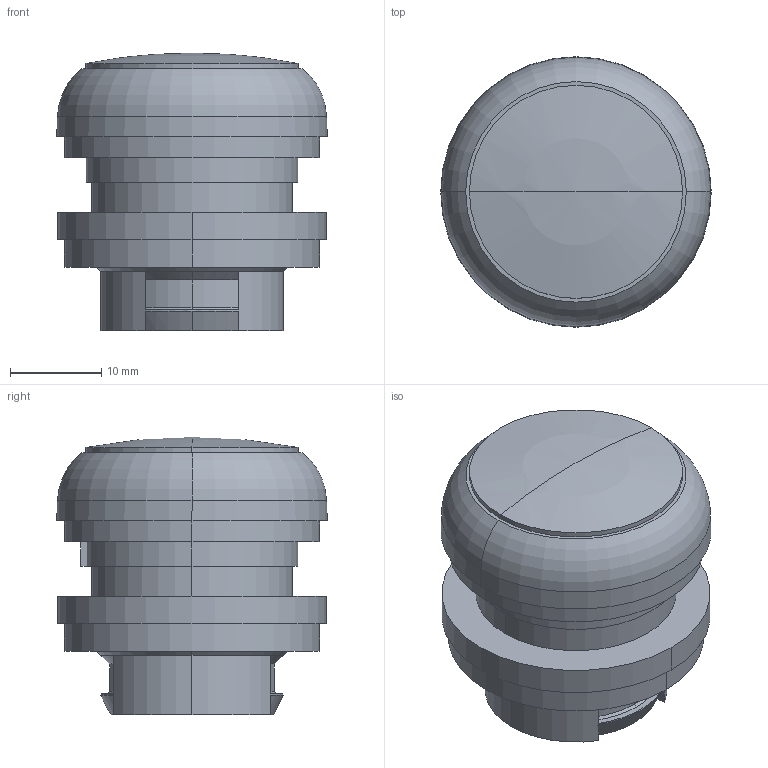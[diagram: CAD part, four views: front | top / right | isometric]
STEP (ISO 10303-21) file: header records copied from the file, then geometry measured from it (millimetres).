
FILE_DESCRIPTION( ( '' ), '1' );
FILE_NAME( '//expscmdclustefs.cadenas.external/client_exchange/iodir/jobs/output/wkb46014049_no0/STEP/216771_2_03.stp', '2012-06-15T15:07:36', ( '' ), ( '' ), ' ', ' ', ' ' );
FILE_SCHEMA( ( 'CONFIG_CONTROL_DESIGN' ) );
Length unit declared in the file: millimetre
Products named in the file (1): 1
Bounding box: 29.7 x 29.7 x 30.5 mm (x, y, z)
Volume: 15043 mm3; surface area: 4195.7 mm2
Topology: 1 solids, 1 shells, 66 faces, 159 edges, 101 vertices
Faces by surface type: plane 25, cylinder 19, cone 18, torus 2, sphere 2
Entity records: 1966 total; most frequent: DIRECTION 360, CARTESIAN_POINT 349, ORIENTED_EDGE 314, EDGE_CURVE 157, AXIS2_PLACEMENT_3D 148, VERTEX_POINT 101, CIRCLE 79, EDGE_LOOP 74
